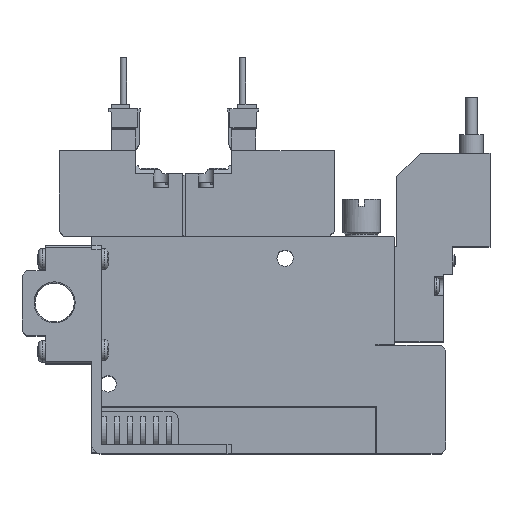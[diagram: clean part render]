
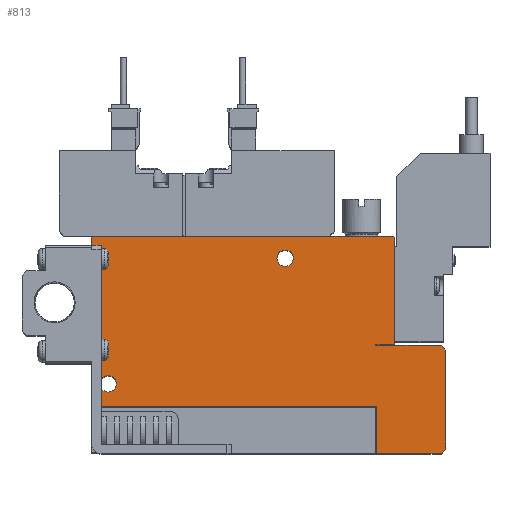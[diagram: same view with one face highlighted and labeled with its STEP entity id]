
A CAD part, top view. The second image highlights one B-rep face of the part: STEP entity #813.
In plain terms, the highlighted planar face has unit normal (0, 0, 1).
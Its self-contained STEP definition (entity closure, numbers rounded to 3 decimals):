
#813=ADVANCED_FACE('',(#1900,#1901,#1902),#1903,.F.);
#1900=FACE_OUTER_BOUND('',#3562,.T.);
#1901=FACE_BOUND('',#3563,.T.);
#1902=FACE_BOUND('',#3564,.T.);
#1903=PLANE('',#3565);
#3562=EDGE_LOOP('',(#7053,#7054,#7055,#7056,#7057,#7058,#7059,#7060,#7061,#7062,#7063,#7064,#7065,#7066));
#3563=EDGE_LOOP('',(#7067));
#3564=EDGE_LOOP('',(#7068));
#3565=AXIS2_PLACEMENT_3D('',#7069,#7070,#7071);
#7053=ORIENTED_EDGE('',*,*,#11098,.T.);
#7054=ORIENTED_EDGE('',*,*,#11099,.F.);
#7055=ORIENTED_EDGE('',*,*,#11100,.F.);
#7056=ORIENTED_EDGE('',*,*,#11101,.T.);
#7057=ORIENTED_EDGE('',*,*,#11102,.T.);
#7058=ORIENTED_EDGE('',*,*,#11103,.T.);
#7059=ORIENTED_EDGE('',*,*,#11104,.T.);
#7060=ORIENTED_EDGE('',*,*,#11105,.T.);
#7061=ORIENTED_EDGE('',*,*,#11106,.T.);
#7062=ORIENTED_EDGE('',*,*,#11107,.T.);
#7063=ORIENTED_EDGE('',*,*,#11108,.T.);
#7064=ORIENTED_EDGE('',*,*,#11109,.T.);
#7065=ORIENTED_EDGE('',*,*,#11110,.T.);
#7066=ORIENTED_EDGE('',*,*,#11111,.T.);
#7067=ORIENTED_EDGE('',*,*,#11112,.F.);
#7068=ORIENTED_EDGE('',*,*,#11113,.F.);
#7069=CARTESIAN_POINT('',(0.0,0.0,5.0));
#7070=DIRECTION('',(0.0,0.0,-1.0));
#7071=DIRECTION('',(0.0,-1.0,0.0));
#11098=EDGE_CURVE('',#13423,#13424,#13425,.T.);
#11099=EDGE_CURVE('',#13426,#13424,#13427,.T.);
#11100=EDGE_CURVE('',#13428,#13426,#13429,.T.);
#11101=EDGE_CURVE('',#13428,#13430,#13431,.T.);
#11102=EDGE_CURVE('',#13430,#13432,#13433,.T.);
#11103=EDGE_CURVE('',#13432,#13434,#13435,.T.);
#11104=EDGE_CURVE('',#13434,#13436,#13437,.T.);
#11105=EDGE_CURVE('',#13436,#13438,#13439,.T.);
#11106=EDGE_CURVE('',#13438,#13440,#13441,.T.);
#11107=EDGE_CURVE('',#13440,#13442,#13443,.T.);
#11108=EDGE_CURVE('',#13442,#13444,#13445,.T.);
#11109=EDGE_CURVE('',#13444,#13446,#13447,.T.);
#11110=EDGE_CURVE('',#13446,#13448,#13449,.T.);
#11111=EDGE_CURVE('',#13448,#13423,#13450,.T.);
#11112=EDGE_CURVE('',#13451,#13451,#13452,.T.);
#11113=EDGE_CURVE('',#13453,#13453,#13454,.T.);
#13423=VERTEX_POINT('',#17305);
#13424=VERTEX_POINT('',#17306);
#13425=LINE('',#17307,#17308);
#13426=VERTEX_POINT('',#17309);
#13427=LINE('',#17310,#17311);
#13428=VERTEX_POINT('',#17312);
#13429=LINE('',#17313,#17314);
#13430=VERTEX_POINT('',#17315);
#13431=LINE('',#17316,#17317);
#13432=VERTEX_POINT('',#17318);
#13433=LINE('',#17319,#17320);
#13434=VERTEX_POINT('',#17321);
#13435=LINE('',#17322,#17323);
#13436=VERTEX_POINT('',#17324);
#13437=LINE('',#17325,#17326);
#13438=VERTEX_POINT('',#17327);
#13439=LINE('',#17328,#17329);
#13440=VERTEX_POINT('',#17330);
#13441=LINE('',#17331,#17332);
#13442=VERTEX_POINT('',#17333);
#13443=LINE('',#17334,#17335);
#13444=VERTEX_POINT('',#17336);
#13445=LINE('',#17337,#17338);
#13446=VERTEX_POINT('',#17339);
#13447=LINE('',#17340,#17341);
#13448=VERTEX_POINT('',#17342);
#13449=LINE('',#17343,#17344);
#13450=LINE('',#17345,#17346);
#13451=VERTEX_POINT('',#17347);
#13452=CIRCLE('',#17348,1.75);
#13453=VERTEX_POINT('',#17349);
#13454=CIRCLE('',#17350,1.75);
#17305=CARTESIAN_POINT('',(0.0,46.4,5.0));
#17306=CARTESIAN_POINT('',(0.0,10.1,5.0));
#17307=CARTESIAN_POINT('',(0.0,46.4,5.0));
#17308=VECTOR('',#21791,1.0);
#17309=CARTESIAN_POINT('',(61.1,10.1,5.0));
#17310=CARTESIAN_POINT('',(61.1,10.1,5.0));
#17311=VECTOR('',#21792,1.0);
#17312=CARTESIAN_POINT('',(61.1,0.0,5.0));
#17313=CARTESIAN_POINT('',(61.1,0.0,5.0));
#17314=VECTOR('',#21793,1.0);
#17315=CARTESIAN_POINT('',(75.0,0.0,5.0));
#17316=CARTESIAN_POINT('',(0.0,0.0,5.0));
#17317=VECTOR('',#21794,1.0);
#17318=CARTESIAN_POINT('',(76.0,1.0,5.0));
#17319=CARTESIAN_POINT('',(75.0,0.0,5.0));
#17320=VECTOR('',#21795,1.0);
#17321=CARTESIAN_POINT('',(76.0,22.25,5.0));
#17322=CARTESIAN_POINT('',(76.0,1.0,5.0));
#17323=VECTOR('',#21796,1.0);
#17324=CARTESIAN_POINT('',(75.0,23.25,5.0));
#17325=CARTESIAN_POINT('',(76.0,22.25,5.0));
#17326=VECTOR('',#21797,1.0);
#17327=CARTESIAN_POINT('',(61.0,23.25,5.0));
#17328=CARTESIAN_POINT('',(75.0,23.25,5.0));
#17329=VECTOR('',#21798,1.0);
#17330=CARTESIAN_POINT('',(61.0,23.5,5.0));
#17331=CARTESIAN_POINT('',(61.0,23.25,5.0));
#17332=VECTOR('',#21799,1.0);
#17333=CARTESIAN_POINT('',(65.0,23.5,5.0));
#17334=CARTESIAN_POINT('',(61.0,23.5,5.0));
#17335=VECTOR('',#21800,1.0);
#17336=CARTESIAN_POINT('',(65.0,46.4,5.0));
#17337=CARTESIAN_POINT('',(65.0,23.5,5.0));
#17338=VECTOR('',#21801,1.0);
#17339=CARTESIAN_POINT('',(64.8,46.6,5.0));
#17340=CARTESIAN_POINT('',(65.0,46.4,5.0));
#17341=VECTOR('',#21802,1.0);
#17342=CARTESIAN_POINT('',(0.2,46.6,5.0));
#17343=CARTESIAN_POINT('',(64.8,46.6,5.0));
#17344=VECTOR('',#21803,1.0);
#17345=CARTESIAN_POINT('',(0.2,46.6,5.0));
#17346=VECTOR('',#21804,1.0);
#17347=CARTESIAN_POINT('',(5.25,15.0,5.0));
#17348=AXIS2_PLACEMENT_3D('',#21805,#21806,#21807);
#17349=CARTESIAN_POINT('',(43.25,42.0,5.0));
#17350=AXIS2_PLACEMENT_3D('',#21808,#21809,#21810);
#21791=DIRECTION('',(0.0,-1.0,0.0));
#21792=DIRECTION('',(-1.0,0.0,0.0));
#21793=DIRECTION('',(0.0,1.0,0.0));
#21794=DIRECTION('',(1.0,0.0,0.0));
#21795=DIRECTION('',(0.707,0.707,0.0));
#21796=DIRECTION('',(0.0,1.0,0.0));
#21797=DIRECTION('',(-0.707,0.707,0.0));
#21798=DIRECTION('',(-1.0,0.0,0.0));
#21799=DIRECTION('',(0.0,1.0,0.0));
#21800=DIRECTION('',(1.0,0.,0.0));
#21801=DIRECTION('',(0.0,1.0,0.0));
#21802=DIRECTION('',(-0.707,0.707,0.0));
#21803=DIRECTION('',(-1.0,0.0,0.0));
#21804=DIRECTION('',(-0.707,-0.707,0.0));
#21805=CARTESIAN_POINT('',(3.5,15.0,5.0));
#21806=DIRECTION('',(0.0,0.0,1.0));
#21807=DIRECTION('',(1.0,0.0,0.0));
#21808=CARTESIAN_POINT('',(41.5,42.0,5.0));
#21809=DIRECTION('',(0.0,0.0,1.0));
#21810=DIRECTION('',(1.0,0.0,0.0));
